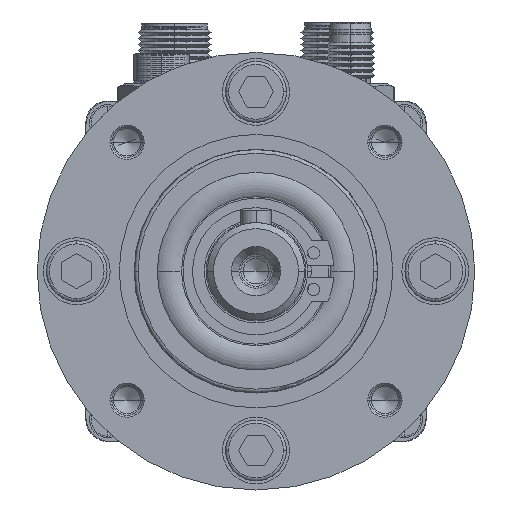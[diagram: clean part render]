
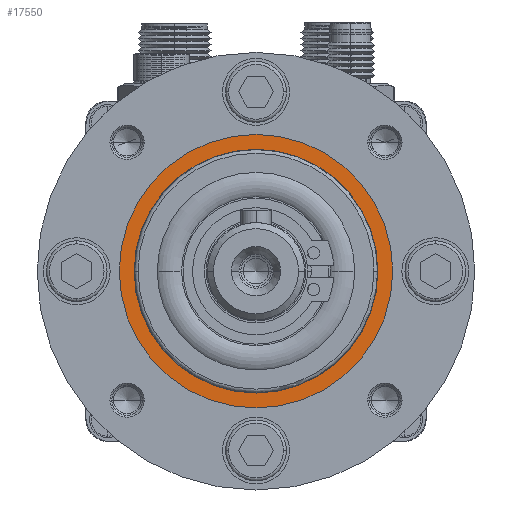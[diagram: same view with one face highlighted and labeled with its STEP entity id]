
A CAD part, left-side view. The second image highlights one B-rep face of the part: STEP entity #17550.
In plain terms, the highlighted planar face has unit normal (-1, 0, 0) as drawn and (1, 0, 0) by its records, which use the part's own axes.
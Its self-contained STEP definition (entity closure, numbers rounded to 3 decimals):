
#2594 = ORIENTED_EDGE ( 'NONE', *, *, #12759, .F. ) ;
#4886 = CARTESIAN_POINT ( 'NONE',  ( 38.6, 0., 0. ) ) ;
#6641 = CARTESIAN_POINT ( 'NONE',  ( 38.6, 0., 0. ) ) ;
#8396 = CIRCLE ( 'NONE', #23478, 20.05 ) ;
#9854 = CARTESIAN_POINT ( 'NONE',  ( 38.6, 0., -20.05 ) ) ;
#9916 = AXIS2_PLACEMENT_3D ( 'NONE', #4886, #89555, #47238 ) ;
#12759 = EDGE_CURVE ( 'NONE', #40289, #27374, #43069, .T. ) ;
#17550 = ADVANCED_FACE ( 'NONE', ( #54679, #79595 ), #87518, .T. ) ;
#19255 = DIRECTION ( 'NONE',  ( -1., 0., 0. ) ) ;
#23478 = AXIS2_PLACEMENT_3D ( 'NONE', #82965, #19255, #136650 ) ;
#27374 = VERTEX_POINT ( 'NONE', #32288 ) ;
#28133 = DIRECTION ( 'NONE',  ( -1., 0., 0. ) ) ;
#32288 = CARTESIAN_POINT ( 'NONE',  ( 38.6, 0., 22.5 ) ) ;
#36365 = ORIENTED_EDGE ( 'NONE', *, *, #85430, .F. ) ;
#40289 = VERTEX_POINT ( 'NONE', #89074 ) ;
#43069 = CIRCLE ( 'NONE', #9916, 22.5 ) ;
#45714 = CARTESIAN_POINT ( 'NONE',  ( 38.6, 0., 0. ) ) ;
#46720 = ORIENTED_EDGE ( 'NONE', *, *, #119017, .T. ) ;
#47238 = DIRECTION ( 'NONE',  ( 0., 0., -1. ) ) ;
#47484 = DIRECTION ( 'NONE',  ( 0., 0., -1. ) ) ;
#53693 = CIRCLE ( 'NONE', #81514, 22.5 ) ;
#54679 = FACE_OUTER_BOUND ( 'NONE', #97427, .T. ) ;
#68843 = CARTESIAN_POINT ( 'NONE',  ( 38.6, 0., 0. ) ) ;
#79595 = FACE_BOUND ( 'NONE', #134493, .T. ) ;
#81514 = AXIS2_PLACEMENT_3D ( 'NONE', #45714, #120278, #120747 ) ;
#82965 = CARTESIAN_POINT ( 'NONE',  ( 38.6, 0., 0. ) ) ;
#85430 = EDGE_CURVE ( 'NONE', #27374, #40289, #53693, .T. ) ;
#87518 = PLANE ( 'NONE',  #88430 ) ;
#88430 = AXIS2_PLACEMENT_3D ( 'NONE', #68843, #111271, #47484 ) ;
#89074 = CARTESIAN_POINT ( 'NONE',  ( 38.6, 0., -22.5 ) ) ;
#89555 = DIRECTION ( 'NONE',  ( -1., 0., 0. ) ) ;
#94699 = AXIS2_PLACEMENT_3D ( 'NONE', #6641, #28133, #102558 ) ;
#97427 = EDGE_LOOP ( 'NONE', ( #2594, #36365 ) ) ;
#98169 = CARTESIAN_POINT ( 'NONE',  ( 38.6, 0., 20.05 ) ) ;
#102558 = DIRECTION ( 'NONE',  ( 0., 0., 1. ) ) ;
#103110 = VERTEX_POINT ( 'NONE', #9854 ) ;
#111271 = DIRECTION ( 'NONE',  ( 1., 0., 0. ) ) ;
#112396 = CIRCLE ( 'NONE', #94699, 20.05 ) ;
#116949 = VERTEX_POINT ( 'NONE', #98169 ) ;
#119017 = EDGE_CURVE ( 'NONE', #116949, #103110, #8396, .T. ) ;
#120278 = DIRECTION ( 'NONE',  ( -1., 0., 0. ) ) ;
#120747 = DIRECTION ( 'NONE',  ( 0., 0., -1. ) ) ;
#132719 = ORIENTED_EDGE ( 'NONE', *, *, #133884, .T. ) ;
#133884 = EDGE_CURVE ( 'NONE', #103110, #116949, #112396, .T. ) ;
#134493 = EDGE_LOOP ( 'NONE', ( #46720, #132719 ) ) ;
#136650 = DIRECTION ( 'NONE',  ( 0., 0., 1. ) ) ;
